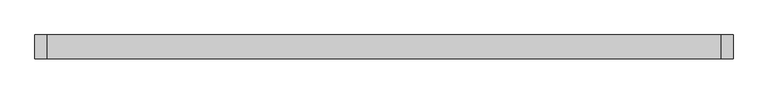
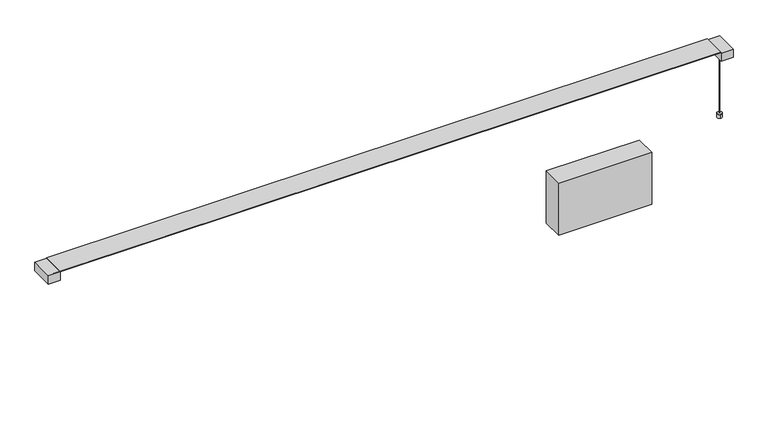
"""IFC4 building model written with IfcOpenShell, lengths in millimetres: light fixture geometry, Fabbian.Pivot F39 (F39 A01A 01,F39 A01A 21,F39 A01A 76,F39 A02A 01,F39 A02A 21,F39 A02A 76) : F39 A01A 01."""

from ifc_helpers import new_model, si_unit, point, frame, frame_2d, origin, origin_with_axes, place, context, project, spatial, polyline, circle_curve, trimmed, segment, composite_curve, outline, extrude, source, transform, mapped, element, save


def light_fixture_f0bcf3ed(model_context):
    return source(origin(), model_context, "Body", "SweptSolid", [
        extrude(outline(polyline([(619.1350388, 24.9666442), (619.1350388, -25.0334567), (399.1348055, -25.0334567), (399.1348055, 24.9666442), (619.1350388, 24.9666442)])), frame((0.0, 0.0, -142.875), z_axis=(0.0, 0.0, 1.0), x_axis=(1.0, 0.0, 0.0)), (0.0, 0.0, 1.0), 130.175),
        extrude(outline(composite_curve([segment(trimmed(circle_curve(frame_2d((794.2560169, 0.0)), 0.4949808), [point((794.7509977, 0.0))], [point((793.7610361, 0.0))], False, "CARTESIAN"), True, "CONTINUOUS"), segment(trimmed(circle_curve(frame_2d((794.2560169, 0.0)), 0.4949808), [point((793.7610361, 0.0))], [point((794.7509977, 0.0))], False, "CARTESIAN"), True, "CONTINUOUS")], self_intersect=False)), origin_with_axes(), (0.0, 0.0, 1.0), 159.6242394),
        extrude(outline(polyline([(-0.4107254, 159.893756), (-26.3879175, 181.0787506), (25.5497693, 181.0787506), (0.4107259, 159.893756), (0.4107259, 160.681594), (-0.4107254, 160.681594), (-0.4107254, 159.893756)])), frame((-782.3132834, 0.0, 0.0), z_axis=(1.0, 0.0, 0.0), x_axis=(0.0, 1.0, 0.0)), (0.0, 0.0, 1.0), 1564.6265668),
        extrude(outline(polyline([(-782.3132834, 27.7285043), (-782.3132834, -27.7953166), (-810.5140956, -27.7953166), (-810.5140956, 27.7285043), (-782.3132834, 27.7285043)])), frame((0.0, 0.0, 159.6242394), z_axis=(0.0, 0.0, 1.0), x_axis=(1.0, 0.0, 0.0)), (0.0, 0.0, 1.0), 20.8761838),
        extrude(outline(polyline([(782.3132834, 27.7285042), (810.5140956, 27.7285042), (810.5140956, -27.7953167), (782.3132834, -27.7953167), (782.3132834, 27.7285042)])), frame((0.0, 0.0, 159.6242394), z_axis=(0.0, 0.0, 1.0), x_axis=(1.0, 0.0, 0.0)), (0.0, 0.0, 1.0), 20.8761838),
        extrude(outline(polyline([(0.0, -0.8214513), (0.0, 0.0), (1564.6265668, 0.0), (1564.6265668, -0.8214513), (0.0, -0.8214513)])), frame((-782.3132834, 0.4107259, 159.893756), z_axis=(-5.7155291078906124e-11, 0.0, 1.0), x_axis=(1.0, 0.0, 5.7155291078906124e-11)), (0.0, 0.0, 1.0), 0.787838),
        extrude(outline(polyline([(781.7488887, -27.7780006), (-782.3132834, -27.7780006), (-782.3132834, 27.7779986), (781.7488887, 27.7779986), (781.7488887, -27.7780006)])), frame((0.0, 0.0, 181.0787506), z_axis=(0.0, 0.0, 1.0), x_axis=(1.0, 0.0, 0.0)), (0.0, 0.0, 1.0), 1.1514277),
        extrude(outline(composite_curve([segment(trimmed(circle_curve(frame_2d((794.2560169, -0.4556113)), 5.8155806), [point((795.0837096, 5.3007681))], [point((793.4283243, -6.2119906))], False, "CARTESIAN"), True, "CONTINUOUS"), segment(trimmed(circle_curve(frame_2d((794.2560169, -0.4556113)), 5.8155806), [point((793.4283243, -6.2119906))], [point((795.0837096, 5.3007681))], False, "CARTESIAN"), True, "CONTINUOUS")], self_intersect=False)), origin_with_axes(), (0.0, 0.0, 1.0), 9.6582083),
    ])


if __name__ == "__main__":
    model = new_model("IFC4")
    model_context = context("Model", 3, world=origin())
    ifc_project = project(units=[si_unit("LENGTHUNIT", "METRE", prefix="MILLI")], contexts=[model_context])
    site = spatial("IfcSite", under=ifc_project)
    building = spatial("IfcBuilding", under=site)
    placement = place(None, origin())
    light_fixture_shape = light_fixture_f0bcf3ed(model_context)
    element("IfcLightFixture", 1, ObjectType="Fabbian.Pivot F39 (F39 A01A 01,F39 A01A 21,F39 A01A 76,F39 A02A 01,F39 A02A 21,F39 A02A 76) : F39 A01A 01", at=placement, inside=building, context=model_context, shape_type="MappedRepresentation", body=[
        mapped(light_fixture_shape, transform((0.0, 0.0, 0.0), x_axis=(1.0, 0.0, 0.0), y_axis=(0.0, 1.0, 0.0), z_axis=(0.0, 0.0, 1.0))),
    ])
    save(model, "model.ifc")
